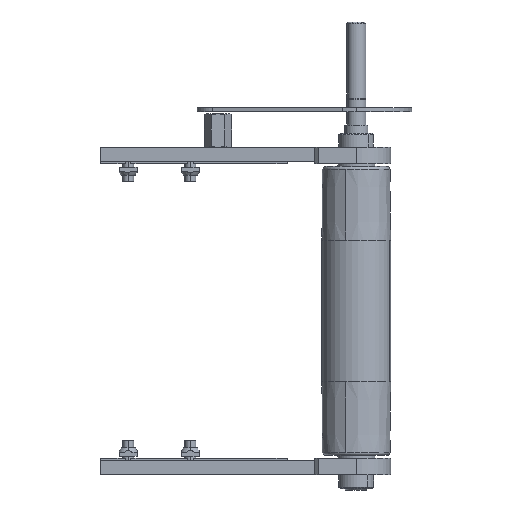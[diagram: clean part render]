
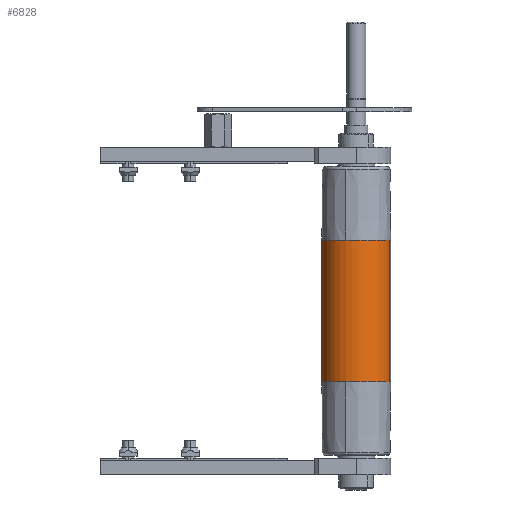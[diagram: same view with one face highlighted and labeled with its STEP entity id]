
A CAD part, front view. The second image highlights one B-rep face of the part: STEP entity #6828.
In plain terms, the highlighted cylindrical face has radius 25 mm (diameter 50 mm), a partial arc.
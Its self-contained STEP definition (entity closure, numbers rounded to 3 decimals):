
#202 = EDGE_CURVE ( 'NONE', #18258, #3786, #10606, .T. ) ;
#555 = CARTESIAN_POINT ( 'NONE',  ( 185., 0., 102.5 ) ) ;
#684 = CARTESIAN_POINT ( 'NONE',  ( 208.803, -7.644, 102.5 ) ) ;
#727 = VERTEX_POINT ( 'NONE', #8680 ) ;
#1178 = EDGE_CURVE ( 'NONE', #18258, #3697, #10135, .T. ) ;
#1602 = ORIENTED_EDGE ( 'NONE', *, *, #16635, .F. ) ;
#2640 = EDGE_CURVE ( 'NONE', #727, #16282, #13792, .T. ) ;
#2897 = CARTESIAN_POINT ( 'NONE',  ( 177.356, -23.803, 51.25 ) ) ;
#3094 = CARTESIAN_POINT ( 'NONE',  ( 185., 0., 51.25 ) ) ;
#3394 = DIRECTION ( 'NONE',  ( 0., 0., -1. ) ) ;
#3415 = ORIENTED_EDGE ( 'NONE', *, *, #1178, .F. ) ;
#3444 = VERTEX_POINT ( 'NONE', #4664 ) ;
#3697 = VERTEX_POINT ( 'NONE', #15562 ) ;
#3755 = DIRECTION ( 'NONE',  ( 0., 0., -1. ) ) ;
#3786 = VERTEX_POINT ( 'NONE', #2897 ) ;
#3816 = DIRECTION ( 'NONE',  ( 0.306, 0.952, 0. ) ) ;
#4156 = ORIENTED_EDGE ( 'NONE', *, *, #202, .T. ) ;
#4184 = VECTOR ( 'NONE', #3755, 1000. ) ;
#4391 = FACE_OUTER_BOUND ( 'NONE', #11190, .T. ) ;
#4582 = DIRECTION ( 'NONE',  ( 0.306, 0.952, 0. ) ) ;
#4664 = CARTESIAN_POINT ( 'NONE',  ( 161.197, 7.644, 51.25 ) ) ;
#5089 = CIRCLE ( 'NONE', #5720, 25. ) ;
#5720 = AXIS2_PLACEMENT_3D ( 'NONE', #3094, #13287, #4582 ) ;
#6828 = ADVANCED_FACE ( 'NONE', ( #4391 ), #10727, .T. ) ;
#7022 = DIRECTION ( 'NONE',  ( 0.306, 0.952, 0. ) ) ;
#7092 = CARTESIAN_POINT ( 'NONE',  ( 185., 0., -51.25 ) ) ;
#8272 = AXIS2_PLACEMENT_3D ( 'NONE', #555, #10755, #12219 ) ;
#8624 = CARTESIAN_POINT ( 'NONE',  ( 208.803, -7.644, 51.25 ) ) ;
#8680 = CARTESIAN_POINT ( 'NONE',  ( 177.356, -23.803, -51.25 ) ) ;
#9122 = DIRECTION ( 'NONE',  ( 0., 0., -1. ) ) ;
#9160 = CARTESIAN_POINT ( 'NONE',  ( 161.197, 7.644, -51.25 ) ) ;
#9181 = CIRCLE ( 'NONE', #18215, 25. ) ;
#9774 = ORIENTED_EDGE ( 'NONE', *, *, #16401, .T. ) ;
#10135 = LINE ( 'NONE', #684, #14497 ) ;
#10283 = ORIENTED_EDGE ( 'NONE', *, *, #2640, .F. ) ;
#10606 = CIRCLE ( 'NONE', #11906, 25. ) ;
#10727 = CYLINDRICAL_SURFACE ( 'NONE', #8272, 25. ) ;
#10755 = DIRECTION ( 'NONE',  ( 0., 0., -1. ) ) ;
#11190 = EDGE_LOOP ( 'NONE', ( #4156, #18077, #9774, #10283, #1602, #3415 ) ) ;
#11906 = AXIS2_PLACEMENT_3D ( 'NONE', #13790, #9122, #16575 ) ;
#12219 = DIRECTION ( 'NONE',  ( 0.952, -0.306, 0. ) ) ;
#12373 = LINE ( 'NONE', #13825, #4184 ) ;
#12952 = AXIS2_PLACEMENT_3D ( 'NONE', #7092, #3394, #7022 ) ;
#13287 = DIRECTION ( 'NONE',  ( 0., 0., -1. ) ) ;
#13790 = CARTESIAN_POINT ( 'NONE',  ( 185., 0., 51.25 ) ) ;
#13792 = CIRCLE ( 'NONE', #12952, 25. ) ;
#13825 = CARTESIAN_POINT ( 'NONE',  ( 161.197, 7.644, 102.5 ) ) ;
#14497 = VECTOR ( 'NONE', #18435, 1000. ) ;
#14573 = CARTESIAN_POINT ( 'NONE',  ( 185., 0., -51.25 ) ) ;
#15541 = DIRECTION ( 'NONE',  ( 0., 0., -1. ) ) ;
#15562 = CARTESIAN_POINT ( 'NONE',  ( 208.803, -7.644, -51.25 ) ) ;
#16282 = VERTEX_POINT ( 'NONE', #9160 ) ;
#16401 = EDGE_CURVE ( 'NONE', #3444, #16282, #12373, .T. ) ;
#16575 = DIRECTION ( 'NONE',  ( 0.306, 0.952, 0. ) ) ;
#16635 = EDGE_CURVE ( 'NONE', #3697, #727, #9181, .T. ) ;
#16897 = EDGE_CURVE ( 'NONE', #3786, #3444, #5089, .T. ) ;
#18077 = ORIENTED_EDGE ( 'NONE', *, *, #16897, .T. ) ;
#18215 = AXIS2_PLACEMENT_3D ( 'NONE', #14573, #15541, #3816 ) ;
#18258 = VERTEX_POINT ( 'NONE', #8624 ) ;
#18435 = DIRECTION ( 'NONE',  ( 0., 0., -1. ) ) ;
